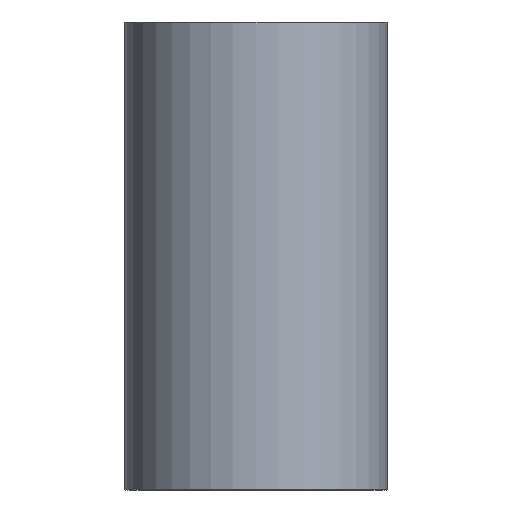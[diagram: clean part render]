
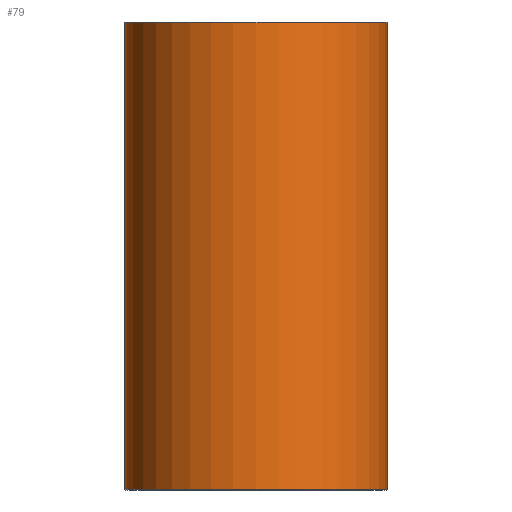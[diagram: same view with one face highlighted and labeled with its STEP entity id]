
A CAD part, front view. The second image highlights one B-rep face of the part: STEP entity #79.
In plain terms, the highlighted cylindrical face has radius 28 mm (diameter 56 mm), a full revolution.
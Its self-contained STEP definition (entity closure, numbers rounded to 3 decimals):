
#79=ADVANCED_FACE('',(#96,#97),#98,.T.);
#96=FACE_OUTER_BOUND('',#120,.T.);
#97=FACE_OUTER_BOUND('',#121,.T.);
#98=CYLINDRICAL_SURFACE('',#122,28.0);
#120=EDGE_LOOP('',(#152));
#121=EDGE_LOOP('',(#153));
#122=AXIS2_PLACEMENT_3D('',#154,#155,#156);
#152=ORIENTED_EDGE('',*,*,#178,.T.);
#153=ORIENTED_EDGE('',*,*,#177,.T.);
#154=CARTESIAN_POINT('',(0.0,0.0,100.0));
#155=DIRECTION('',(0.0,0.0,-1.0));
#156=DIRECTION('',(-1.0,0.0,0.0));
#177=EDGE_CURVE('',#190,#190,#191,.T.);
#178=EDGE_CURVE('',#192,#192,#193,.F.);
#190=VERTEX_POINT('',#206);
#191=CIRCLE('',#207,28.0);
#192=VERTEX_POINT('',#208);
#193=CIRCLE('',#209,28.0);
#206=CARTESIAN_POINT('',(28.0,0.0,0.2));
#207=AXIS2_PLACEMENT_3D('',#227,#228,#229);
#208=CARTESIAN_POINT('',(28.0,0.,99.8));
#209=AXIS2_PLACEMENT_3D('',#230,#231,#232);
#227=CARTESIAN_POINT('',(0.0,0.0,0.2));
#228=DIRECTION('',(0.0,0.0,1.0));
#229=DIRECTION('',(1.0,0.0,0.0));
#230=CARTESIAN_POINT('',(0.0,0.0,99.8));
#231=DIRECTION('',(0.0,0.0,1.0));
#232=DIRECTION('',(1.0,0.0,0.0));
